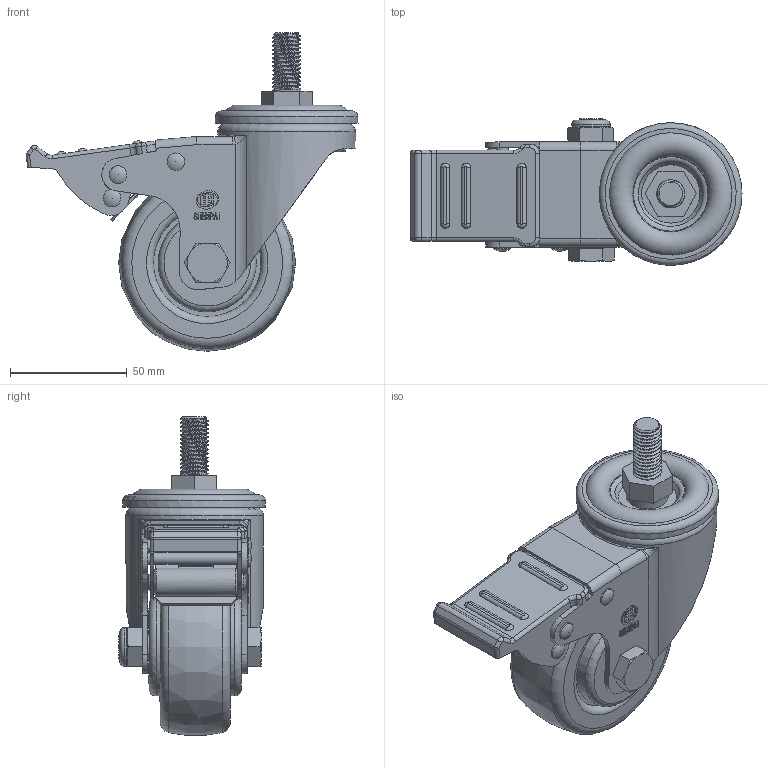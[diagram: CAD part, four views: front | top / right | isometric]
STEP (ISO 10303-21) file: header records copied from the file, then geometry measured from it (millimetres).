
FILE_DESCRIPTION(/* description */ (''),/* implementation_level */ '2;1');
FILE_NAME(/* name */ '20A05_3_F.stp',/* time_stamp */ '2022-09-03T09:56:45+08:00',/* author */ (''),/* organization */ (''),/* preprocessor_version */ 'ST-DEVELOPER v14',/* originating_system */ 'SIEMENS PLM Software NX 8.0',/* authorisation */ '');
FILE_SCHEMA (('AUTOMOTIVE_DESIGN { 1 0 10303 214 3 1 1 1 }'));
Length unit declared in the file: millimetre
Products named in the file (1): 20A05_3_F
Bounding box: 142.03 x 62.77 x 136.35 mm (x, y, z)
Volume: 15264.4 mm3; surface area: 92599.4 mm2
Topology: 2 solids, 3 shells, 997 faces, 2932 edges, 1920 vertices
Faces by surface type: plane 422, cylinder 282, torus 107, sphere 87, cone 76, bspline 23
Full cylindrical faces by diameter (mm): 4 x3, 5 x3, 5.2 x8, 7.5 x2, 10 x3, 11.2 x2, 12 x1, 12.2 x1, 12.496 x1, 13.2 x3, 16 x1, 16.5 x1, 17 x1, 18 x1, 20.8 x3, 23.2 x2, 24 x1, 30.122 x1, 33 x2, 41 x2, 42 x2, 45.996 x1, 46 x2, 54 x1, 56 x1, 59 x1, 61 x1
Entity records: 41177 total; most frequent: CARTESIAN_POINT 17504, ORIENTED_EDGE 5134, DIRECTION 4553, EDGE_CURVE 2567, AXIS2_PLACEMENT_3D 1816, VERTEX_POINT 1745, EDGE_LOOP 1197, ADVANCED_FACE 980
